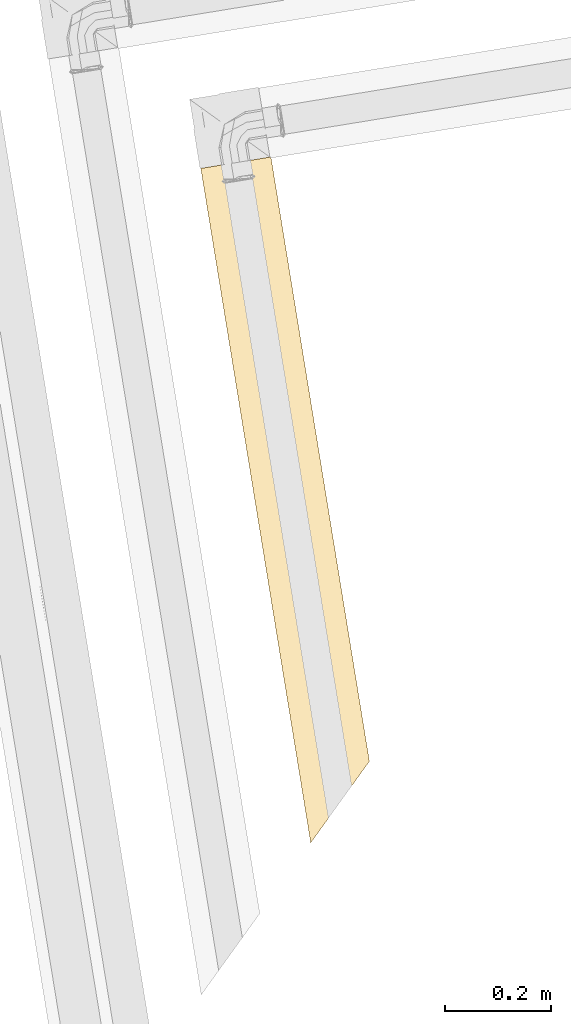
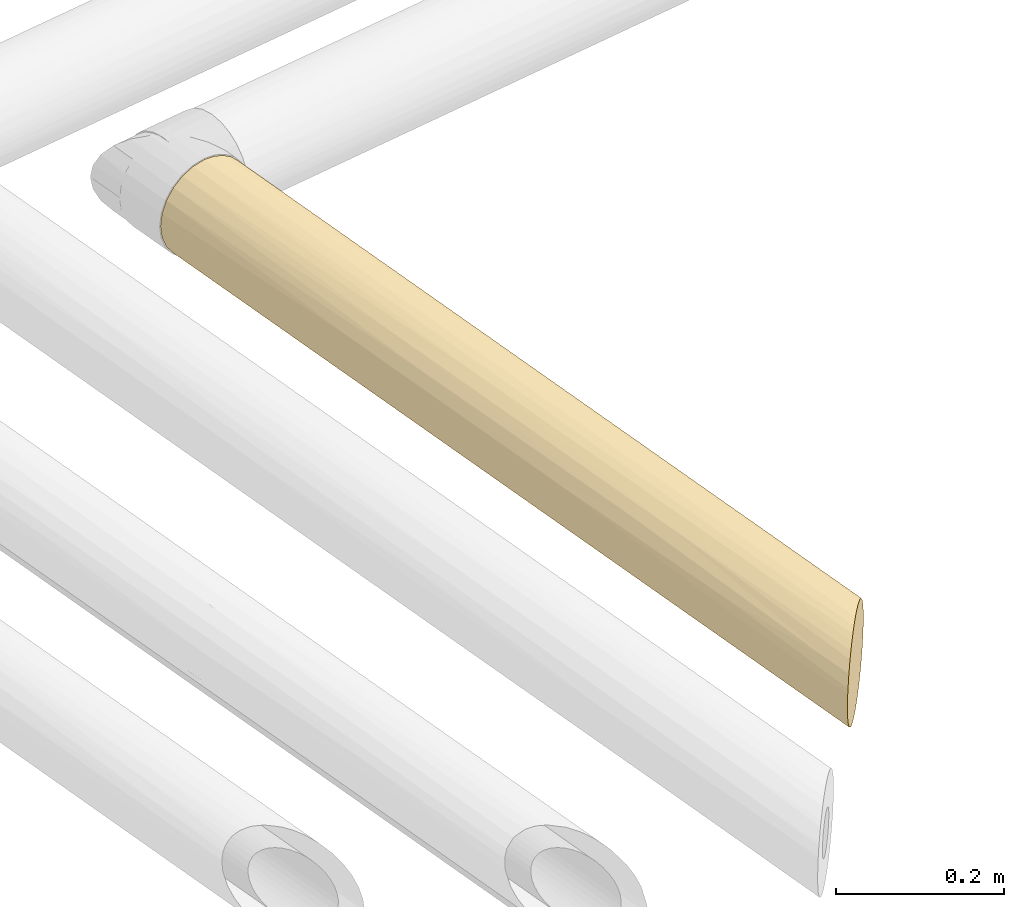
# One storey, part 2 of 46: 1 covering.
"""IFC2X3 building model written with IfcOpenShell, lengths in millimetres."""

from ifc_helpers import new_model, entity, si_unit, converted_unit, derived_unit, direction, frame, origin, origin_with_axes, place, context, subcontext, project, spatial, faceted_brep, type_object, element, save


model = new_model("IFC2X3")

# Units and contexts
model_context = context("Model", 3, precision=0.01, world=origin(), true_north=direction((6.12323399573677e-17, 1.0)))
plan_context = context("Plan", 3, precision=1e-05, world=origin_with_axes())
body_context = subcontext(model_context, "Body", "Model", "MODEL_VIEW")
ifc_project = project(units=[converted_unit("PLANEANGLEUNIT", "DEGREE", entity("IfcPositiveLengthMeasure", 0.0174532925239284), si_unit("PLANEANGLEUNIT", "RADIAN"), dimensions=[0, 0, 0, 0, 0, 0, 0]), si_unit("AREAUNIT", "SQUARE_METRE"), si_unit("LENGTHUNIT", "METRE", prefix="MILLI"), si_unit("MASSUNIT", "GRAM", prefix="KILO"), si_unit("POWERUNIT", "WATT"), si_unit("PRESSUREUNIT", "PASCAL", prefix="KILO"), si_unit("FORCEUNIT", "NEWTON", prefix="KILO"), si_unit("ELECTRICVOLTAGEUNIT", "VOLT"), si_unit("ELECTRICCURRENTUNIT", "AMPERE"), si_unit("THERMODYNAMICTEMPERATUREUNIT", "DEGREE_CELSIUS"), si_unit("TIMEUNIT", "SECOND"), si_unit("VOLUMEUNIT", "CUBIC_METRE"), derived_unit("LINEARVELOCITYUNIT", [(si_unit("LENGTHUNIT", "METRE"), 1), (si_unit("TIMEUNIT", "SECOND"), -1)]), derived_unit("VOLUMETRICFLOWRATEUNIT", [(si_unit("VOLUMEUNIT", "CUBIC_METRE"), 1), (si_unit("TIMEUNIT", "SECOND"), -1)]), derived_unit("THERMALTRANSMITTANCEUNIT", [(si_unit("POWERUNIT", "WATT"), 1), (si_unit("THERMODYNAMICTEMPERATUREUNIT", "KELVIN"), -1), (si_unit("AREAUNIT", "SQUARE_METRE"), -1)]), derived_unit("SOUNDPRESSUREUNIT", [(si_unit("PRESSUREUNIT", "PASCAL"), 1)])], contexts=[model_context, plan_context])

# Site, building, storey
site_placement = place(None, frame((-3.09682673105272e-06, 1.93776733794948e-05, 0.0), z_axis=(0.0, 0.0, 1.0), x_axis=(-0.160806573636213, 0.986985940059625, 0.0)))
site = spatial("IfcSite", under=ifc_project, at=site_placement, Name="Default", CompositionType="ELEMENT")
building_placement = place(site_placement, frame((0.0, 0.0, 0.0), z_axis=(0.0, 0.0, 1.0), x_axis=(1.0, -2.77555756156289e-17, 0.0)))
building = spatial("IfcBuilding", under=site, at=building_placement, Name="Bygning (endres i Project Information)", CompositionType="ELEMENT")
storey_placement = place(building_placement, frame((0.0, 0.0, 51360.0000000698), z_axis=(0.0, 0.0, 1.0), x_axis=(1.0, -2.77555756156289e-17, 0.0)))
storey = spatial("IfcBuildingStorey", under=building, at=storey_placement, Name="H01-Nivå D+0,36", CompositionType="ELEMENT", Elevation=51360.0000000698)

# Covering
covering_type = type_object("IfcCoveringType", Name="Pipe Insulation:GLAVA Rørskål ClimPipe Alu2, isol.kl.4, 45°C", PredefinedType="INSULATION")
covering_placement = place(storey_placement, frame((995850.841570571, -347626.02646199, 3371.40472772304), z_axis=(0.0, 0.0, 1.0), x_axis=(1.0, -2.77555756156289e-17, 0.0)))
element("IfcCovering", 1, at=covering_placement, inside=storey, type_object=covering_type, Name="Pipe Insulation:GLAVA Rørskål ClimPipe Alu2, isol.kl.4, 45°C", ObjectType="Pipe Insulation:GLAVA Rørskål ClimPipe Alu2, isol.kl.4, 45°C", PredefinedType="INSULATION", context=body_context, shape_type="Brep", body=[
    faceted_brep([(3137.59527223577, 102.09527229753, 10.5715701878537), (3137.59527223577, 85.9361483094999, 3.87824187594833), (3137.59527223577, 68.5952722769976, 1.5952722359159), (3137.59527223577, 53.8943445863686, 3.22798129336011), (3137.59527223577, 39.9299875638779, 8.03702380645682), (3137.59527223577, 27.3581172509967, 15.7890505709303), (3137.59527223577, 16.7908010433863, 26.1064882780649), (3137.59527223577, 8.73898999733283, 38.4916931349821), (3137.59527223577, 3.5952722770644, 52.3471952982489), (3137.59527223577, 3.5952722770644, 84.8433492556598), (3137.59527223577, 8.73898999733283, 98.6988514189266), (3137.59527223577, 16.7908010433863, 111.084056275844), (3137.59527223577, 27.3581172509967, 121.401493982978), (3137.59527223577, 39.9299875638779, 129.153520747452), (3137.59527223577, 53.8943445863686, 133.962563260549), (3137.59527223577, 68.5952722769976, 135.595272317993), (3137.59527223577, 85.9361483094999, 133.31230267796), (3137.59527223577, 102.09527229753, 126.618974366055), (3137.59527223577, 115.971426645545, 115.971426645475), (3137.59527223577, 126.618974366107, 102.095272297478), (3137.59527223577, 133.312302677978, 85.9361483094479), (3137.59527223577, 135.595272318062, 68.5952722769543), (3137.59527223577, 133.312302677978, 51.2543962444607), (3137.59527223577, 126.618974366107, 35.0952722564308), (3137.59527223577, 115.971426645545, 21.2191179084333), (1877.80235725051, 106.591129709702, 13.4233055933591), (1878.67679401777, 105.716692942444, 12.8667768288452), (1905.39590748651, 106.28942648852, 13.2043818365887), (1895.00309701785, 89.3903899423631, 5.25696267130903), (2045.20468559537, 85.2173961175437, 3.68991807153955), (1899.67982732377, 84.7136596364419, 3.5667453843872), (1912.32299765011, 72.0704893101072, 1.99478417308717), (1994.36211312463, 68.5952722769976, 1.5952722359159), (2458.62573529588, 81.4398479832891, 2.838015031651), (2565.97869268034, 68.5952722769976, 1.59527223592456), (2798.53978086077, 80.0627785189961, 2.58393759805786), (2799.69552502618, 94.235062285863, 6.69534357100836), (2668.91956523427, 109.38228806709, 15.4405984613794), (2396.40779768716, 94.2350623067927, 6.69534357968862), (2274.28955132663, 111.087246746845, 16.7934179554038), (2748.14562940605, 121.749946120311, 27.8082565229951), (2174.36583718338, 121.74994613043, 27.8082565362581), (1861.99643435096, 122.397052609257, 28.6662704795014), (1866.80537106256, 117.588115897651, 24.0563316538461), (1861.38348745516, 123.009999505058, 29.8149072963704), (2029.22399841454, 131.92321091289, 46.7189793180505), (1854.34099871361, 130.052488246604, 42.3938617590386), (1851.2026004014, 133.190886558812, 51.2990858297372), (1848.79821464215, 135.595272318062, 68.5952722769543), (1849.54337661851, 134.850110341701, 61.4362506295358), (1994.36208921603, 135.595272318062, 68.5952722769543), (1849.70816109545, 134.685325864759, 74.9746219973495), (1915.79821468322, 68.5952722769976, 135.595272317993), (1906.04787801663, 78.3456089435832, 134.668027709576), (1994.36504410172, 68.5952722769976, 135.595272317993), (1918.9732503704, 65.4202365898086, 135.164631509), (1949.5571253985, 34.8363615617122, 10.7390140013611), (1952.99083240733, 31.4026545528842, 13.3971811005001), (1998.40670814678, 35.3035685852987, 10.4518077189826), (1962.60429511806, 21.789191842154, 20.6558225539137), (2327.22324732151, 21.7888473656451, 20.6561588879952), (1972.04991051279, 12.343576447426, 32.8828780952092), (1973.72622964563, 10.6672573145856, 34.9567817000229), (2449.41316224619, 12.4225095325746, 32.076499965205), (1975.55036025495, 8.84312670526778, 38.9956892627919), (2190.43846969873, 4.52398135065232, 49.0026796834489), (1981.01497641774, 3.37851054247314, 53.5572687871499), (1982.67735398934, 1.71613297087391, 67.3660313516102), (1982.79821472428, 1.59527223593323, 68.5952722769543), (1992.36195196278, 1.59527223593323, 68.5952722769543), (1982.68649174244, 1.70699521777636, 69.7549771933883), (1981.05842872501, 3.3350582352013, 83.447250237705), (2182.64085735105, 4.40749830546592, 87.8028144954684), (1978.64500023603, 5.74848672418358, 91.6959620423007), (1977.34030263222, 7.05318432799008, 94.6623408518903), (2393.49644835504, 12.4225093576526, 105.114044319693), (2695.94576609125, 5.78391549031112, 91.9133653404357), (2706.88278034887, 2.53451393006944, 79.7745482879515), (2563.97861207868, 1.59527223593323, 68.5952722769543), (2849.7869421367, 1.59527223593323, 68.5952722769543), (3136.09715193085, 2.09715197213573, 76.7806251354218), (3135.59527219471, 1.59527223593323, 68.5952722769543), (3136.09715193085, 2.09715197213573, 60.4099194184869), (2706.88277921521, 2.53456717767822, 57.4156816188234), (2718.24892234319, 5.78391559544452, 45.2771789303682), (2818.58132613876, 12.422509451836, 32.0765000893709), (2718.30542214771, 21.7893065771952, 20.655710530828), (2818.57479686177, 33.4297885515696, 11.5655540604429), (2449.41800980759, 33.4297886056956, 11.5655540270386), (2718.30398475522, 46.7792503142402, 5.24654544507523), (2207.96570592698, 50.0582960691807, 4.2106427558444), (1929.66244779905, 54.7310391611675, 3.07206265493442), (1938.13406686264, 46.2594200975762, 6.34238705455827), (1947.35664844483, 37.0368385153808, 9.71553773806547), (1915.79821468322, 68.5952722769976, 1.5952722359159), (1924.42234948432, 59.9711374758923, 2.45049005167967), (2799.50000415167, 12.4209457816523, 105.111639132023), (2695.97938529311, 21.789306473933, 116.534833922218), (2330.23671587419, 22.5752370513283, 117.289793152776), (2782.20195659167, 33.8986589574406, 125.911456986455), (2615.09426906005, 46.7792502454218, 131.943999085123), (2203.38832808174, 33.4297884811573, 125.624990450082), (2147.68431487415, 50.7406636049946, 133.172458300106), (2565.98267584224, 68.5952722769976, 135.595272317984), (2394.41491079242, 82.0171805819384, 134.237121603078), (2774.10268446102, 81.3059117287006, 134.378550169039), (2597.64242421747, 94.2350622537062, 130.495200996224), (2748.14562982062, 109.382288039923, 121.749946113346), (2215.34041865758, 109.382288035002, 121.749946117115), (2273.51196601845, 120.603527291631, 110.83437046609), (1897.36128495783, 123.71995197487, 106.677678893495), (2081.12170136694, 129.103122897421, 97.3667862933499), (1859.61362060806, 124.779866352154, 104.449222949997), (1853.59113389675, 130.80235306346, 92.9013815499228), (1851.12845379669, 133.265033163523, 86.0785699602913), (2045.20468779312, 133.50062649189, 85.2173960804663), (2396.40779915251, 130.495200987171, 94.2350622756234), (2458.6257367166, 134.352529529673, 81.4398479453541), (2565.9786807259, 135.595272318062, 68.5952722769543), (2798.53978158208, 134.606606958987, 80.0627785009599), (2799.6955256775, 130.495200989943, 94.235062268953), (2668.9195658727, 121.749946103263, 109.382288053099), (2770.34149701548, 134.341368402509, 55.6936890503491), (2580.50826877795, 130.495201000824, 42.955482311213), (2395.16444465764, 134.277259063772, 55.37117997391), (1860.59400707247, 123.79947988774, 106.559783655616), (1861.85263347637, 122.540853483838, 108.103040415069), (1877.84671215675, 106.54677480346, 123.753767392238), (1870.57536733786, 113.818119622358, 117.829500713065), (1885.79610627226, 98.5973806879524, 128.039590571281), (2077.03161780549, 91.7898017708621, 131.452362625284), (1894.48181041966, 89.9116765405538, 132.059425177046), (1903.13350287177, 81.259984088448, 134.387194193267), (1901.98880756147, 82.4046793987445, 134.065595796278), (1951.40762908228, 32.9858578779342, 125.34632951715), (1941.81330206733, 42.5801848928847, 129.536561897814), (1933.6498381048, 50.7436488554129, 133.173283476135), (1962.40942382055, 21.9840631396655, 116.71203465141), (1964.18981054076, 21.9156766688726, 116.65789142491), (1972.70932811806, 11.6841588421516, 103.944099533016), (1962.61480834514, 21.7786786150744, 116.486644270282), (1962.47345658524, 21.9200303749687, 116.66205094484)], [[[0, 1, 2, 3, 4, 5, 6, 7, 8, 9, 10, 11, 12, 13, 14, 15, 16, 17, 18, 19, 20, 21, 22, 23, 24]], [[25, 26, 27]], [[26, 28, 29, 27]], [[28, 30, 29]], [[30, 31, 32, 29]], [[32, 33, 29]], [[33, 32, 34]], [[33, 34, 35]], [[33, 35, 36]], [[1, 36, 35]], [[1, 35, 2]], [[36, 1, 0]], [[36, 0, 37]], [[38, 36, 37]], [[37, 39, 38]], [[39, 37, 40]], [[41, 39, 40]], [[39, 41, 27]], [[42, 43, 27, 41]], [[44, 42, 41, 45]], [[46, 44, 45]], [[47, 46, 45]], [[48, 49, 50]], [[51, 48, 50]], [[52, 53, 54]], [[55, 52, 54]], [[56, 57, 58]], [[57, 59, 60, 58]], [[59, 61, 60]], [[61, 62, 63, 60]], [[62, 64, 65, 63]], [[64, 66, 65]], [[67, 68, 69]], [[68, 70, 69]], [[70, 71, 72, 69]], [[71, 73, 72]], [[73, 74, 75, 72]], [[72, 75, 76]], [[76, 77, 72]], [[78, 72, 77]], [[77, 79, 78]], [[80, 79, 77]], [[77, 9, 80]], [[80, 81, 79]], [[79, 81, 82]], [[79, 82, 83]], [[8, 83, 82]], [[84, 83, 8]], [[8, 7, 84]], [[7, 85, 84]], [[63, 84, 85]], [[63, 85, 86]], [[6, 86, 85]], [[6, 5, 86]], [[5, 87, 86]], [[88, 86, 87]], [[88, 87, 89]], [[90, 88, 89]], [[90, 58, 88]], [[91, 92, 58, 90]], [[92, 93, 58]], [[94, 95, 32]], [[95, 91, 90, 32]], [[89, 34, 90]], [[89, 3, 34]], [[34, 3, 2]], [[3, 89, 4]], [[89, 87, 4]], [[86, 88, 60]], [[87, 5, 4]], [[6, 85, 7]], [[65, 83, 84]], [[78, 83, 65]], [[69, 78, 65]], [[78, 79, 83]], [[77, 76, 9]], [[9, 76, 10]], [[96, 10, 76]], [[10, 96, 11]], [[97, 11, 96]], [[97, 96, 75]], [[75, 98, 97]], [[97, 98, 99]], [[97, 99, 12]], [[99, 13, 12]], [[99, 100, 13]], [[100, 99, 101]], [[102, 100, 101]], [[100, 102, 103]], [[54, 103, 102]], [[54, 104, 103]], [[104, 105, 103]], [[103, 105, 15]], [[103, 15, 14]], [[105, 16, 15]], [[106, 16, 105]], [[17, 16, 106]], [[107, 17, 106]], [[106, 108, 107]], [[108, 109, 107]], [[109, 108, 110]], [[110, 111, 109]], [[112, 113, 111, 110]], [[113, 114, 115, 111]], [[115, 116, 111]], [[116, 115, 117]], [[50, 117, 115]], [[117, 50, 118]], [[117, 118, 119]], [[119, 118, 21]], [[20, 119, 21]], [[20, 120, 119]], [[120, 20, 19]], [[121, 120, 19]], [[116, 120, 121]], [[121, 109, 116]], [[18, 121, 19]], [[121, 18, 107]], [[118, 122, 21]], [[122, 22, 21]], [[123, 22, 122]], [[123, 122, 124]], [[124, 45, 123]], [[45, 124, 50]], [[23, 22, 123]], [[40, 23, 123]], [[40, 24, 23]], [[122, 118, 124]], [[117, 119, 120]], [[50, 124, 118]], [[116, 117, 120]], [[125, 112, 110]], [[126, 125, 110]], [[127, 128, 108]], [[129, 127, 108, 130]], [[131, 129, 130]], [[109, 111, 116]], [[128, 126, 110, 108]], [[109, 121, 107]], [[130, 108, 106]], [[104, 130, 106]], [[132, 133, 130, 104]], [[17, 107, 18]], [[106, 105, 104]], [[100, 103, 14]], [[134, 135, 102, 101]], [[135, 136, 102]], [[137, 134, 101, 138]], [[101, 98, 138]], [[100, 14, 13]], [[99, 98, 101]], [[138, 98, 75]], [[139, 140, 138, 75]], [[97, 12, 11]], [[76, 75, 96]], [[78, 69, 72]], [[66, 67, 69, 65]], [[65, 84, 63]], [[63, 86, 60]], [[60, 88, 58]], [[93, 56, 58]], [[74, 139, 75]], [[140, 141, 138]], [[141, 137, 138]], [[136, 55, 54, 102]], [[53, 132, 104, 54]], [[133, 131, 130]], [[114, 51, 50, 115]], [[49, 47, 45, 50]], [[45, 41, 123]], [[123, 41, 40]], [[37, 24, 40]], [[27, 38, 39]], [[24, 37, 0]], [[38, 33, 36]], [[35, 34, 2]], [[34, 32, 90]], [[29, 33, 38]], [[31, 94, 32]], [[38, 27, 29]], [[43, 25, 27]], [[80, 9, 8, 82, 81]], [[43, 42, 44, 46, 47, 49, 48, 51, 114, 113, 112, 125, 126, 128, 127, 129, 131, 133, 132, 53, 52, 55, 136, 135, 134, 137, 141, 140, 139, 74, 73, 71, 70, 68, 67, 66, 64, 62, 61, 59, 57, 56, 93, 92, 91, 95, 94, 31, 30, 28, 26, 25]]], orient=[[False], [False], [False], [False], [False], [False], [False], [False], [False], [False], [False], [False], [False], [False], [False], [False], [False], [False], [False], [False], [False], [False], [False], [False], [False], [False], [False], [False], [False], [False], [False], [False], [False], [False], [False], [False], [False], [False], [False], [False], [False], [False], [False], [False], [False], [False], [False], [False], [False], [False], [False], [False], [False], [False], [False], [False], [False], [False], [False], [False], [False], [False], [False], [False], [False], [False], [False], [False], [False], [False], [False], [False], [False], [False], [False], [False], [False], [False], [False], [False], [False], [False], [False], [False], [False], [False], [False], [False], [False], [False], [False], [False], [False], [False], [False], [False], [False], [False], [False], [False], [False], [False], [False], [False], [False], [False], [False], [False], [False], [False], [False], [False], [False], [False], [False], [False], [False], [False], [False], [False], [False], [False], [False], [False], [False], [False], [False], [False], [False], [False], [False], [False], [False], [False], [False], [False], [False], [False], [False], [False], [False], [False], [False], [False], [False], [False], [False], [False], [False], [False], [False], [False], [False], [False], [False], [False], [False], [False], [False], [False], [False], [False], [False], [False], [False], [False], [False], [False], [False], [False], [False], [False], [False], [False], [False], [False], [False], [False], [False], [False], [False], [False], [False]]),
])

save(model, "model.ifc")
